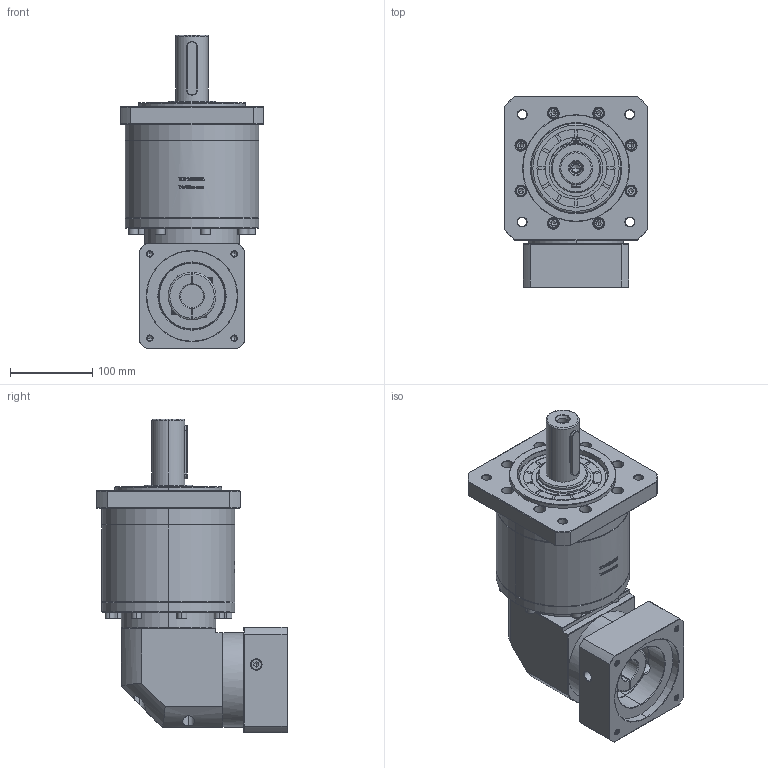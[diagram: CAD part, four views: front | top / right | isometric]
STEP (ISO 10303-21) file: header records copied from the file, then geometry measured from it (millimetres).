
FILE_DESCRIPTION (( 'STEP AP214' ), '1' );
FILE_NAME ('ZFR160A-D40-L3-28-110-145-M8.step', '2023-03-25T01:57:50', ( '' ), ( '' ), 'SwSTEP 2.0', 'SolidWorks 2016', '' );
FILE_SCHEMA (( 'AUTOMOTIVE_DESIGN' ));
Length unit declared in the file: millimetre
Products named in the file (1): ZFR160A-D40-L3-28-110-145-M8
Bounding box: 175 x 232.4 x 381.2 mm (x, y, z)
Volume: 5832269 mm3; surface area: 374187.9 mm2
Topology: 6 solids, 6 shells, 2785 faces, 7260 edges, 4645 vertices
Faces by surface type: plane 1374, bspline 498, cylinder 496, cone 371, torus 46
Entity records: 150154 total; most frequent: CARTESIAN_POINT 55580, ORIENTED_EDGE 14412, DIRECTION 11376, EDGE_CURVE 7206, VERTEX_POINT 4645, VECTOR 4506, LINE 4506, AXIS2_PLACEMENT_3D 3435
